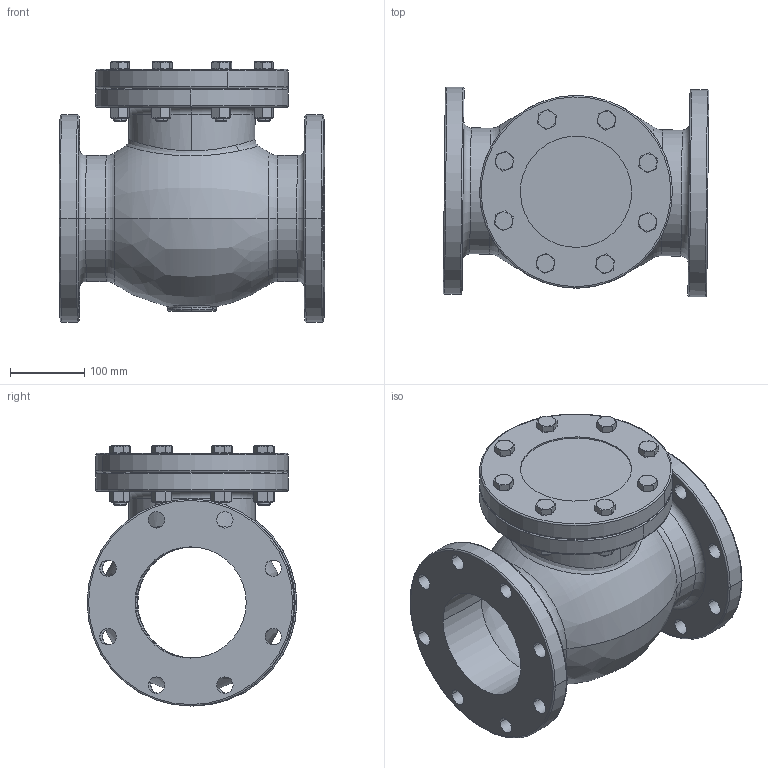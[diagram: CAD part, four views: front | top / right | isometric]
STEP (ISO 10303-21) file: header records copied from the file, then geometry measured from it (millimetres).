
FILE_DESCRIPTION(('Open CASCADE Model'),'2;1');
FILE_NAME('Open CASCADE Shape Model','2022-03-10T07:39:52',('Author'),( 'Open CASCADE'),'Open CASCADE STEP processor 7.3','Open CASCADE 7.3' ,'Unknown');
FILE_SCHEMA(('AUTOMOTIVE_DESIGN { 1 0 10303 214 1 1 1 1 }'));
Length unit declared in the file: millimetre
Products named in the file (19): Open CASCADE STEP translator 7.3 1; Open CASCADE STEP translator 7.3 1.1; Open CASCADE STEP translator 7.3 1.2; Open CASCADE STEP translator 7.3 1.3; Open CASCADE STEP translator 7.3 1.4; Open CASCADE STEP translator 7.3 1.5; Open CASCADE STEP translator 7.3 1.6; Open CASCADE STEP translator 7.3 1.7; Open CASCADE STEP translator 7.3 1.8; Open CASCADE STEP translator 7.3 1.9; Open CASCADE STEP translator 7.3 1.10; Open CASCADE STEP translator 7.3 1.11; Open CASCADE STEP translator 7.3 1.12; Open CASCADE STEP translator 7.3 1.13; Open CASCADE STEP translator 7.3 1.14; Open CASCADE STEP translator 7.3 1.15; Open CASCADE STEP translator 7.3 1.16; Open CASCADE STEP translator 7.3 1.17; Open CASCADE STEP translator 7.3 1.18
Assembly tree (18 placements, depth 2):
  Open CASCADE STEP translator 7.3 1
    Open CASCADE STEP translator 7.3 1.1
    Open CASCADE STEP translator 7.3 1.2
    Open CASCADE STEP translator 7.3 1.3
    Open CASCADE STEP translator 7.3 1.4
    Open CASCADE STEP translator 7.3 1.5
    Open CASCADE STEP translator 7.3 1.6
    Open CASCADE STEP translator 7.3 1.7
    Open CASCADE STEP translator 7.3 1.8
    Open CASCADE STEP translator 7.3 1.9
    Open CASCADE STEP translator 7.3 1.10
    Open CASCADE STEP translator 7.3 1.11
    Open CASCADE STEP translator 7.3 1.12
    Open CASCADE STEP translator 7.3 1.13
    Open CASCADE STEP translator 7.3 1.14
    Open CASCADE STEP translator 7.3 1.15
    Open CASCADE STEP translator 7.3 1.16
    Open CASCADE STEP translator 7.3 1.17
    Open CASCADE STEP translator 7.3 1.18
Bounding box: 358.45 x 283.05 x 350.88 mm (x, y, z)
Volume: 6459429.5 mm3; surface area: 952379.2 mm2
Topology: 18 solids, 18 shells, 501 faces, 1186 edges, 736 vertices
Faces by surface type: plane 195, cone 144, cylinder 124, torus 28, revolution 6, bspline 4
Entity records: 45646 total; most frequent: CARTESIAN_POINT 22554, DIRECTION 4002, ORIENTED_EDGE 2372, PCURVE 2372, DEFINITIONAL_REPRESENTATION 2372, LINE 1796, VECTOR 1796, EDGE_CURVE 1186
